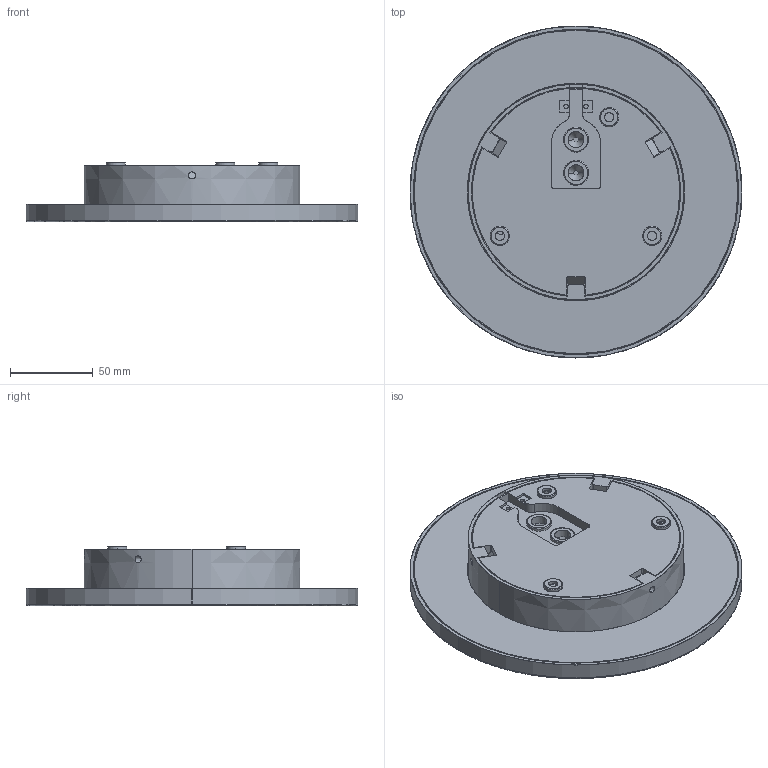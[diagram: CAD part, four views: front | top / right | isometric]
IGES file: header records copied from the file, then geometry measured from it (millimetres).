
Start section: SolidWorks IGES file using analytic representation for surfaces
Global section: file name: \\srvficheros\personales\o.domenech\3D\LIBRERIA_3D\Producto\3966_COMBO\A39660-20\COMBO-A39660-3D.IGS; native system: SolidWorks 2023; preprocessor: SolidWorks 2023; author: o.domenech; date: 240718.104648; units: millimetre
Bounding box: 200 x 200 x 35.98 mm (x, y, z)
Surface area: 119514.4 mm2 (no closed solid volume)
Topology: 0 solids, 0 shells, 163 faces, 3732 edges, 4300 vertices
Faces by surface type: revolution 98, bspline 65
